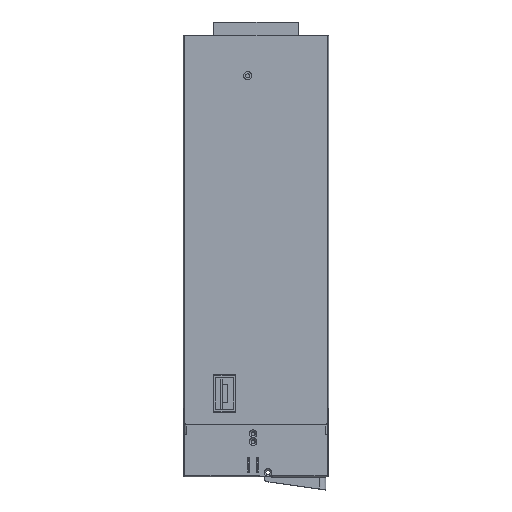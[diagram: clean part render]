
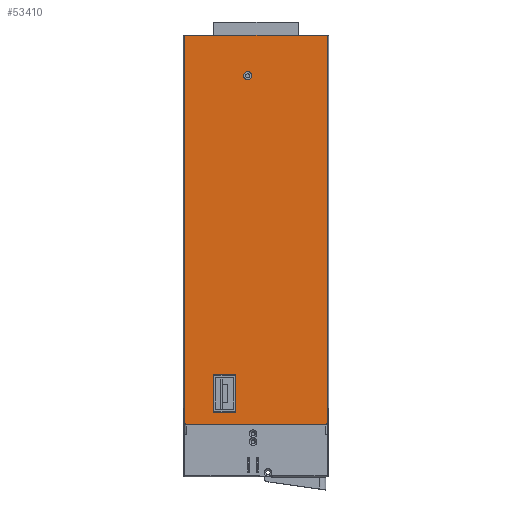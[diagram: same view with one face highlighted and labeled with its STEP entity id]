
A CAD part, top view. The second image highlights one B-rep face of the part: STEP entity #53410.
In plain terms, the highlighted planar face has unit normal (0, 0, 1).
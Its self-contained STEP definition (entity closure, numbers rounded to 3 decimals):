
#52099=DIRECTION('',(0.,-1.,0.));
#52100=VECTOR('',#52099,274.5);
#52101=CARTESIAN_POINT('',(454.337,376.952,41.8));
#52102=LINE('',#52101,#52100);
#52121=DIRECTION('',(-1.,0.,0.));
#52122=VECTOR('',#52121,0.05);
#52123=CARTESIAN_POINT('',(454.337,102.452,41.8));
#52124=LINE('',#52123,#52122);
#52252=DIRECTION('',(0.,1.,0.));
#52253=VECTOR('',#52252,11.);
#52254=CARTESIAN_POINT('',(349.787,91.452,41.8));
#52255=LINE('',#52254,#52253);
#52260=DIRECTION('',(0.,-1.,0.));
#52261=VECTOR('',#52260,274.5);
#52262=CARTESIAN_POINT('',(349.737,376.952,41.8));
#52263=LINE('',#52262,#52261);
#52264=DIRECTION('',(-1.,0.,0.));
#52265=VECTOR('',#52264,104.6);
#52266=CARTESIAN_POINT('',(454.337,376.952,41.8));
#52267=LINE('',#52266,#52265);
#52268=CARTESIAN_POINT('',(453.287,91.452,41.8));
#52269=DIRECTION('',(0.,0.,1.));
#52270=DIRECTION('',(0.,-1.,0.));
#52271=AXIS2_PLACEMENT_3D('',#52268,#52269,#52270);
#52273=CARTESIAN_POINT('',(350.787,91.452,41.8));
#52274=DIRECTION('',(0.,0.,1.));
#52275=DIRECTION('',(-1.,0.,0.));
#52276=AXIS2_PLACEMENT_3D('',#52273,#52274,#52275);
#52278=DIRECTION('',(1.,0.,0.));
#52279=VECTOR('',#52278,0.05);
#52280=CARTESIAN_POINT('',(349.737,102.452,41.8));
#52281=LINE('',#52280,#52279);
#52282=CARTESIAN_POINT('',(395.937,347.215,41.8));
#52283=DIRECTION('',(0.,0.,-1.));
#52284=DIRECTION('',(1.,0.,0.));
#52285=AXIS2_PLACEMENT_3D('',#52282,#52283,#52284);
#52287=CARTESIAN_POINT('',(395.937,347.215,41.8));
#52288=DIRECTION('',(0.,0.,-1.));
#52289=DIRECTION('',(-1.,0.,0.));
#52290=AXIS2_PLACEMENT_3D('',#52287,#52288,#52289);
#52300=DIRECTION('',(0.,-1.,0.));
#52301=VECTOR('',#52300,11.);
#52302=CARTESIAN_POINT('',(454.287,102.452,41.8));
#52303=LINE('',#52302,#52301);
#52316=DIRECTION('',(-1.,0.,0.));
#52317=VECTOR('',#52316,102.5);
#52318=CARTESIAN_POINT('',(453.287,90.452,41.8));
#52319=LINE('',#52318,#52317);
#52324=DIRECTION('',(1.,0.,0.));
#52325=VECTOR('',#52324,15.336);
#52326=CARTESIAN_POINT('',(371.244,99.452,41.8));
#52327=LINE('',#52326,#52325);
#52332=CARTESIAN_POINT('',(386.58,99.452,41.8));
#52333=CARTESIAN_POINT('',(386.816,99.452,41.8));
#52334=CARTESIAN_POINT('',(387.144,99.595,41.8));
#52335=CARTESIAN_POINT('',(387.287,99.923,41.8));
#52336=CARTESIAN_POINT('',(387.287,100.159,41.8));
#52403=DIRECTION('',(-1.,0.,0.));
#52404=VECTOR('',#52403,15.336);
#52405=CARTESIAN_POINT('',(386.58,127.489,41.8));
#52406=LINE('',#52405,#52404);
#52411=CARTESIAN_POINT('',(371.244,127.489,41.8));
#52412=CARTESIAN_POINT('',(371.008,127.489,41.8));
#52413=CARTESIAN_POINT('',(370.68,127.346,41.8));
#52414=CARTESIAN_POINT('',(370.537,127.018,41.8));
#52415=CARTESIAN_POINT('',(370.537,126.782,41.8));
#52421=DIRECTION('',(0.,-1.,0.));
#52422=VECTOR('',#52421,26.623);
#52423=CARTESIAN_POINT('',(370.537,126.782,41.8));
#52424=LINE('',#52423,#52422);
#52429=CARTESIAN_POINT('',(370.537,100.159,41.8));
#52430=CARTESIAN_POINT('',(370.537,99.923,41.8));
#52431=CARTESIAN_POINT('',(370.68,99.595,41.8));
#52432=CARTESIAN_POINT('',(371.008,99.452,41.8));
#52433=CARTESIAN_POINT('',(371.244,99.452,41.8));
#52435=CARTESIAN_POINT('',(387.287,126.782,41.8));
#52436=CARTESIAN_POINT('',(387.287,126.848,41.8));
#52437=CARTESIAN_POINT('',(387.275,126.969,41.8));
#52438=CARTESIAN_POINT('',(387.226,127.121,41.8));
#52439=CARTESIAN_POINT('',(387.15,127.25,41.8));
#52440=CARTESIAN_POINT('',(387.049,127.351,41.8));
#52441=CARTESIAN_POINT('',(386.921,127.428,41.8));
#52442=CARTESIAN_POINT('',(386.768,127.477,41.8));
#52443=CARTESIAN_POINT('',(386.646,127.489,41.8));
#52444=CARTESIAN_POINT('',(386.58,127.489,41.8));
#52446=DIRECTION('',(0.,1.,0.));
#52447=VECTOR('',#52446,26.623);
#52448=CARTESIAN_POINT('',(387.287,100.159,41.8));
#52449=LINE('',#52448,#52447);
#52696=CARTESIAN_POINT('',(349.737,102.452,41.8));
#52697=VERTEX_POINT('',#52696);
#52698=CARTESIAN_POINT('',(349.737,376.952,41.8));
#52699=VERTEX_POINT('',#52698);
#52710=CARTESIAN_POINT('',(454.337,376.952,41.8));
#52711=VERTEX_POINT('',#52710);
#52727=CARTESIAN_POINT('',(349.787,102.452,41.8));
#52728=VERTEX_POINT('',#52727);
#52749=CARTESIAN_POINT('',(349.787,91.452,41.8));
#52750=VERTEX_POINT('',#52749);
#52751=CARTESIAN_POINT('',(350.787,90.452,41.8));
#52752=VERTEX_POINT('',#52751);
#52753=CARTESIAN_POINT('',(453.287,90.452,41.8));
#52754=VERTEX_POINT('',#52753);
#52755=CARTESIAN_POINT('',(454.287,91.452,41.8));
#52756=VERTEX_POINT('',#52755);
#52757=CARTESIAN_POINT('',(454.287,102.452,41.8));
#52758=VERTEX_POINT('',#52757);
#52759=CARTESIAN_POINT('',(454.337,102.452,41.8));
#52760=VERTEX_POINT('',#52759);
#52761=CARTESIAN_POINT('',(371.244,99.452,41.8));
#52762=CARTESIAN_POINT('',(386.58,99.452,41.8));
#52763=VERTEX_POINT('',#52761);
#52764=VERTEX_POINT('',#52762);
#52765=VERTEX_POINT('',#52429);
#52766=CARTESIAN_POINT('',(370.537,126.782,41.8));
#52767=VERTEX_POINT('',#52766);
#52768=VERTEX_POINT('',#52411);
#52769=CARTESIAN_POINT('',(386.58,127.489,41.8));
#52770=VERTEX_POINT('',#52769);
#52771=VERTEX_POINT('',#52435);
#52772=CARTESIAN_POINT('',(387.287,100.159,41.8));
#52773=VERTEX_POINT('',#52772);
#52774=CARTESIAN_POINT('',(392.937,347.215,41.8));
#52775=CARTESIAN_POINT('',(398.937,347.215,41.8));
#52776=VERTEX_POINT('',#52774);
#52777=VERTEX_POINT('',#52775);
#53366=CARTESIAN_POINT('',(402.037,233.702,41.8));
#53367=DIRECTION('',(0.,0.,1.));
#53368=DIRECTION('',(1.,0.,0.));
#53369=AXIS2_PLACEMENT_3D('',#53366,#53367,#53368);
#53370=PLANE('',#53369);
#53371=ORIENTED_EDGE('',*,*,#52918,.F.);
#53372=ORIENTED_EDGE('',*,*,#53055,.F.);
#53373=ORIENTED_EDGE('',*,*,#53147,.T.);
#53374=ORIENTED_EDGE('',*,*,#53174,.T.);
#53376=ORIENTED_EDGE('',*,*,#53375,.T.);
#53378=ORIENTED_EDGE('',*,*,#53377,.F.);
#53380=ORIENTED_EDGE('',*,*,#53379,.T.);
#53381=ORIENTED_EDGE('',*,*,#53332,.F.);
#53382=ORIENTED_EDGE('',*,*,#53352,.T.);
#53383=ORIENTED_EDGE('',*,*,#52939,.F.);
#53384=EDGE_LOOP('',(#53371,#53372,#53373,#53374,#53376,#53378,#53380,#53381,
#53382,#53383));
#53385=FACE_OUTER_BOUND('',#53384,.F.);
#53387=ORIENTED_EDGE('',*,*,#53386,.T.);
#53389=ORIENTED_EDGE('',*,*,#53388,.T.);
#53391=ORIENTED_EDGE('',*,*,#53390,.T.);
#53393=ORIENTED_EDGE('',*,*,#53392,.T.);
#53395=ORIENTED_EDGE('',*,*,#53394,.T.);
#53397=ORIENTED_EDGE('',*,*,#53396,.T.);
#53399=ORIENTED_EDGE('',*,*,#53398,.T.);
#53401=ORIENTED_EDGE('',*,*,#53400,.T.);
#53402=EDGE_LOOP('',(#53387,#53389,#53391,#53393,#53395,#53397,#53399,#53401));
#53403=FACE_BOUND('',#53402,.F.);
#53405=ORIENTED_EDGE('',*,*,#53404,.F.);
#53407=ORIENTED_EDGE('',*,*,#53406,.F.);
#53408=EDGE_LOOP('',(#53405,#53407));
#53409=FACE_BOUND('',#53408,.F.);
#52272=CIRCLE('',#52271,1.);
#52277=CIRCLE('',#52276,1.);
#52286=CIRCLE('',#52285,3.);
#52291=CIRCLE('',#52290,3.);
#52337=B_SPLINE_CURVE_WITH_KNOTS('',3,(#52332,#52333,#52334,#52335,#52336),
.UNSPECIFIED.,.F.,.F.,(4,1,4),(0.,0.5,1.),.UNSPECIFIED.);
#52416=B_SPLINE_CURVE_WITH_KNOTS('',3,(#52411,#52412,#52413,#52414,#52415),
.UNSPECIFIED.,.F.,.F.,(4,1,4),(0.,0.5,1.),.UNSPECIFIED.);
#52434=B_SPLINE_CURVE_WITH_KNOTS('',3,(#52429,#52430,#52431,#52432,#52433),
.UNSPECIFIED.,.F.,.F.,(4,1,4),(0.,0.5,1.),.UNSPECIFIED.);
#52445=B_SPLINE_CURVE_WITH_KNOTS('',3,(#52435,#52436,#52437,#52438,#52439,
#52440,#52441,#52442,#52443,#52444),.UNSPECIFIED.,.F.,.F.,(4,1,1,1,1,1,1,4),(
0.,0.143,0.286,0.429,0.571,
0.714,0.857,1.),.UNSPECIFIED.);
#52918=EDGE_CURVE('',#52699,#52697,#52263,.T.);
#52939=EDGE_CURVE('',#52697,#52728,#52281,.T.);
#53055=EDGE_CURVE('',#52711,#52699,#52267,.T.);
#53147=EDGE_CURVE('',#52711,#52760,#52102,.T.);
#53174=EDGE_CURVE('',#52760,#52758,#52124,.T.);
#53332=EDGE_CURVE('',#52750,#52752,#52277,.T.);
#53352=EDGE_CURVE('',#52750,#52728,#52255,.T.);
#53375=EDGE_CURVE('',#52758,#52756,#52303,.T.);
#53377=EDGE_CURVE('',#52754,#52756,#52272,.T.);
#53379=EDGE_CURVE('',#52754,#52752,#52319,.T.);
#53386=EDGE_CURVE('',#52763,#52764,#52327,.T.);
#53388=EDGE_CURVE('',#52764,#52773,#52337,.T.);
#53390=EDGE_CURVE('',#52773,#52771,#52449,.T.);
#53392=EDGE_CURVE('',#52771,#52770,#52445,.T.);
#53394=EDGE_CURVE('',#52770,#52768,#52406,.T.);
#53396=EDGE_CURVE('',#52768,#52767,#52416,.T.);
#53398=EDGE_CURVE('',#52767,#52765,#52424,.T.);
#53400=EDGE_CURVE('',#52765,#52763,#52434,.T.);
#53404=EDGE_CURVE('',#52777,#52776,#52286,.T.);
#53406=EDGE_CURVE('',#52776,#52777,#52291,.T.);
#53410=ADVANCED_FACE('',(#53385,#53403,#53409),#53370,.T.);
